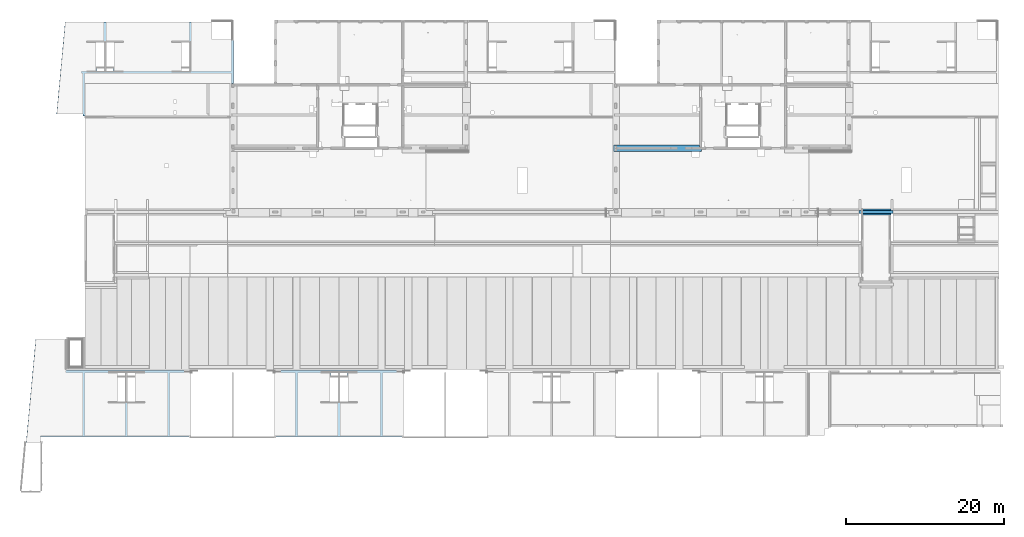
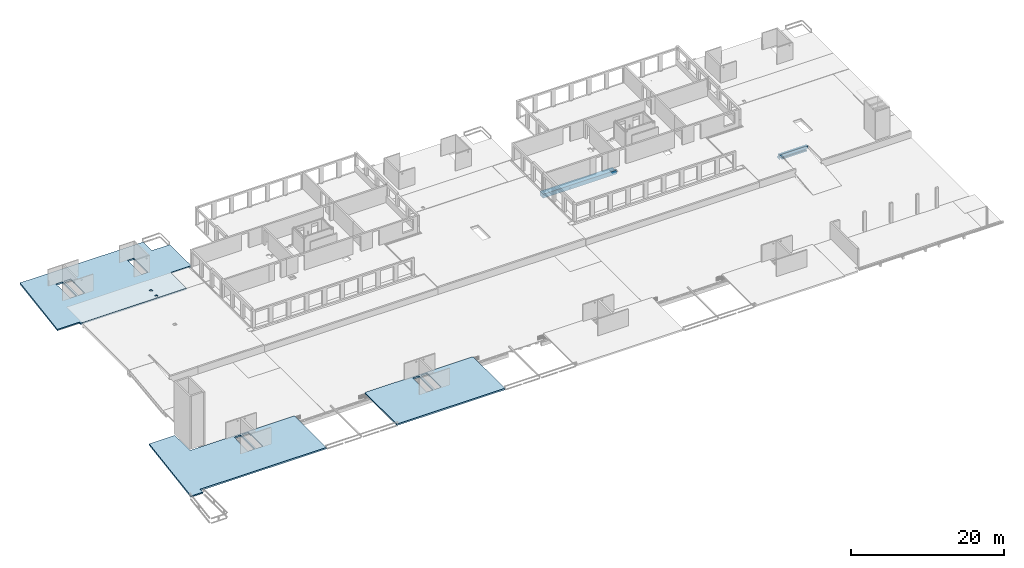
# One storey, part 32 of 36: 3 slabs, 2 beams.
"""IFC2X3 building model written with IfcOpenShell, lengths in millimetres."""

from ifc_helpers import new_model, entity, si_unit, converted_unit, derived_unit, direction, frame, origin, place, context, subcontext, project, spatial, faceted_brep, material, type_object, element, save


model = new_model("IFC2X3")

# Units and contexts
model_context = context("Model", 3, precision=0.01, world=origin(), true_north=direction((6.12303176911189e-17, 1.0)))
body_context = subcontext(model_context, "Body", "Model", "MODEL_VIEW")
ifc_project = project(units=[si_unit("LENGTHUNIT", "METRE", prefix="MILLI"), si_unit("AREAUNIT", "SQUARE_METRE"), si_unit("VOLUMEUNIT", "CUBIC_METRE"), converted_unit("PLANEANGLEUNIT", "DEGREE", entity("IfcRatioMeasure", 0.0174532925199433), si_unit("PLANEANGLEUNIT", "RADIAN"), dimensions=[0, 0, 0, 0, 0, 0, 0]), si_unit("MASSUNIT", "GRAM", prefix="KILO"), derived_unit("MASSDENSITYUNIT", [(si_unit("MASSUNIT", "GRAM", prefix="KILO"), 1), (si_unit("LENGTHUNIT", "METRE"), -3)]), si_unit("TIMEUNIT", "SECOND"), si_unit("FREQUENCYUNIT", "HERTZ"), si_unit("THERMODYNAMICTEMPERATUREUNIT", "DEGREE_CELSIUS"), derived_unit("THERMALTRANSMITTANCEUNIT", [(si_unit("MASSUNIT", "GRAM", prefix="KILO"), 1), (si_unit("THERMODYNAMICTEMPERATUREUNIT", "KELVIN"), -1), (si_unit("TIMEUNIT", "SECOND"), -3)]), derived_unit("VOLUMETRICFLOWRATEUNIT", [(si_unit("LENGTHUNIT", "METRE"), 3), (si_unit("TIMEUNIT", "SECOND"), -1)]), si_unit("ELECTRICCURRENTUNIT", "AMPERE"), si_unit("ELECTRICVOLTAGEUNIT", "VOLT"), si_unit("POWERUNIT", "WATT"), si_unit("FORCEUNIT", "NEWTON", prefix="KILO"), si_unit("ILLUMINANCEUNIT", "LUX"), si_unit("LUMINOUSFLUXUNIT", "LUMEN"), si_unit("LUMINOUSINTENSITYUNIT", "CANDELA"), derived_unit("USERDEFINED", [(si_unit("MASSUNIT", "GRAM", prefix="KILO"), -1), (si_unit("LENGTHUNIT", "METRE"), -2), (si_unit("TIMEUNIT", "SECOND"), 3), (si_unit("LUMINOUSFLUXUNIT", "LUMEN"), 1)]), derived_unit("LINEARVELOCITYUNIT", [(si_unit("LENGTHUNIT", "METRE"), 1), (si_unit("TIMEUNIT", "SECOND"), -1)]), si_unit("PRESSUREUNIT", "PASCAL"), derived_unit("USERDEFINED", [(si_unit("LENGTHUNIT", "METRE"), -2), (si_unit("MASSUNIT", "GRAM", prefix="KILO"), 1), (si_unit("TIMEUNIT", "SECOND"), -2)])], contexts=[model_context])

# Site, building, storey
site_placement = place(None, origin())
site = spatial("IfcSite", under=ifc_project, at=site_placement, Name="Default", CompositionType="ELEMENT")
building_placement = place(site_placement, origin())
building = spatial("IfcBuilding", under=site, at=building_placement, Name="niet gebruiken", CompositionType="ELEMENT")
storey_placement = place(building_placement, frame((0.0, 0.0, 12600.0)))
storey = spatial("IfcBuildingStorey", under=building, at=storey_placement, Name="04 vierde verdieping", CompositionType="ELEMENT", Elevation=12600.0)

# Beams
ifc_material_1 = material(Name="NLRS_f2_beton prefab")
beam_type_1 = type_object("IfcBeamType", Name="NLRS_28.11_SF_WPB_prefabbeton balk dubbele sponning_gen:800x660/200x410/200x410", PredefinedType="BEAM")
beam_1_placement = place(storey_placement, frame((106500.0, 28481.0, -900.0)))
element("IfcBeam", 1, at=beam_1_placement, inside=storey, type_object=beam_type_1, material=ifc_material_1, Name="NLRS_28.11_SF_WPB_prefabbeton balk dubbele sponning_gen:800x660/200x410/200x410", ObjectType="NLRS_28.11_SF_WPB_prefabbeton balk dubbele sponning_gen:800x660/200x410/200x410", context=body_context, shape_type="Brep", body=[
    faceted_brep([(0.0, 600.0, 660.0), (0.0, 600.0, 250.0), (0.0, 800.0, 250.0), (0.0, 800.0, 0.0), (0.0, 0.0, 0.0), (0.0, 0.0, 250.0), (0.0, 200.0, 250.0), (0.0, 200.0, 660.0), (4345.0, 600.0, 660.0), (4345.0, 200.0, 660.0), (4345.0, 200.0, 270.0), (4345.0, 600.0, 270.0), (20.0, 200.0, 660.0), (4325.0, 200.0, 660.0), (5.0, 0.0, 0.0), (5.0, 0.0, 250.0), (4055.0, 600.0, 270.0), (4055.0, 600.0, 250.0), (295.0, 600.0, 250.0), (295.0, 600.0, 270.0), (5.0, 600.0, 270.0), (5.0, 600.0, 250.0), (5.0, 800.0, 250.0), (5.0, 200.0, 250.0), (5.0, 200.0, 270.0), (295.0, 200.0, 270.0), (295.0, 200.0, 250.0), (4055.0, 200.0, 250.0), (4055.0, 200.0, 270.0), (5.0, 800.0, 0.0), (4055.0, 180.095299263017, 236.133963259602), (295.0, 180.095299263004, 236.133963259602), (295.0, 0.0, 213.660358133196), (4055.0, 0.0, 213.660358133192), (4055.0, 180.095299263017, 250.0), (295.0, 180.095299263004, 250.0), (295.0, 800.0, 250.0), (295.0, 800.0, 0.0), (295.0, 0.0, 0.0), (4055.0, 0.0, 0.0), (4055.0, 800.0, 250.0), (4055.0, 800.0, 0.0)], [[[0, 1, 2, 3, 4, 5, 6, 7]], [[8, 9, 10, 11]], [[0, 7, 12, 13, 9, 8]], [[5, 4, 14, 15]], [[1, 0, 8, 11, 16, 17, 18, 19, 20, 21]], [[2, 1, 21, 22]], [[7, 6, 23, 24, 25, 26, 27, 28, 10, 9, 13, 12]], [[6, 5, 15, 23]], [[3, 2, 22, 29]], [[4, 3, 29, 14]], [[30, 31, 32, 33]], [[31, 30, 34, 35]], [[25, 19, 18, 36, 37, 38, 32, 31, 35, 26]], [[20, 24, 23, 15, 14, 29, 22, 21]], [[19, 25, 24, 20]], [[38, 39, 33, 32]], [[36, 18, 17, 40]], [[27, 26, 35, 34]], [[37, 36, 40, 41]], [[38, 37, 41, 39]], [[16, 28, 27, 34, 30, 33, 39, 41, 40, 17]], [[28, 16, 11, 10]]]),
])
ifc_material_2 = material(Name="NLRS_f2_beton ihwg")
beam_type_2 = type_object("IfcBeamType", Name="NLRS_28.11_SF_WPB_betonbalk ihwg recht_gen:850x650", PredefinedType="BEAM")
beam_2_placement = place(storey_placement, frame((75325.0, 36556.0, -990.0)))
element("IfcBeam", 2, at=beam_2_placement, inside=storey, type_object=beam_type_2, material=ifc_material_2, Name="NLRS_28.11_SF_WPB_betonbalk ihwg recht_gen:850x650", ObjectType="NLRS_28.11_SF_WPB_betonbalk ihwg recht_gen:850x650", context=body_context, shape_type="Brep", body=[
    faceted_brep([(0.0, 850.0, 90.0), (0.0, 850.0, 0.0), (0.0, 0.0, 0.0), (0.0, 0.0, 90.0), (0.0, 0.0, 650.0), (0.0, 850.0, 650.0), (800.0, 850.0, 650.0), (800.0, 0.0, 650.0), (10020.0, 0.0, 650.0), (10940.0, 0.0, 650.0), (11200.0, 0.0, 650.0), (11200.0, 300.0, 650.0), (10950.0, 300.0, 650.0), (10950.0, 550.0, 650.0), (10950.0, 850.0, 650.0), (4049.06712675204, 0.0, 298.125920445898), (4035.80217423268, 0.0, 292.631397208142), (4063.30217423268, 0.0, 300.0), (4077.53722171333, 0.0, 298.125920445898), (4090.80217423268, 0.0, 292.631397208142), (4102.19304719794, 0.0, 283.89087296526), (4110.93357144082, 0.0, 272.499999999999), (4116.42809467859, 0.0, 259.235047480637), (4118.30217423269, 0.0, 245.0), (4116.42809467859, 0.0, 230.76495251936), (4110.93357144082, 0.0, 217.499999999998), (4102.19304719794, 0.0, 206.109127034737), (4090.80217423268, 0.0, 197.368602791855), (11200.0, 0.0, 0.0), (4077.53722171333, 0.0, 191.874079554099), (4063.30217423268, 0.0, 190.0), (4049.06712675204, 0.0, 191.874079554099), (4035.80217423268, 0.0, 197.368602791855), (4024.41130126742, 0.0, 206.109127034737), (4015.67077702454, 0.0, 217.499999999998), (4010.17625378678, 0.0, 230.76495251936), (4008.30217423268, 0.0, 245.0), (4010.17625378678, 0.0, 259.235047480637), (4015.67077702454, 0.0, 272.499999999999), (4024.41130126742, 0.0, 283.890872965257), (11200.0, 300.0, 0.0), (10950.0, 850.0, 0.0), (10950.0, 300.0, 0.0), (4035.80217423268, 850.0, 197.368602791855), (4024.41130126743, 850.0, 206.109127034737), (4049.06712675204, 850.0, 191.874079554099), (4063.30217423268, 850.0, 190.0), (4077.53722171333, 850.0, 191.874079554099), (4090.80217423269, 850.0, 197.368602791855), (4102.19304719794, 850.0, 206.109127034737), (4110.93357144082, 850.0, 217.499999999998), (4116.42809467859, 850.0, 230.76495251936), (4118.30217423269, 850.0, 245.0), (4116.42809467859, 850.0, 259.235047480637), (4110.93357144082, 850.0, 272.499999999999), (4102.19304719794, 850.0, 283.89087296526), (4090.80217423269, 850.0, 292.631397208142), (4077.53722171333, 850.0, 298.125920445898), (4063.30217423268, 850.0, 300.0), (4049.06712675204, 850.0, 298.125920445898), (4035.80217423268, 850.0, 292.631397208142), (4024.41130126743, 850.0, 283.890872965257), (4015.67077702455, 850.0, 272.499999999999), (4010.17625378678, 850.0, 259.235047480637), (4008.30217423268, 850.0, 245.0), (4010.17625378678, 850.0, 230.76495251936), (4015.67077702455, 850.0, 217.499999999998), (4012.48879994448, 425.0, 223.952411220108), (4009.35898381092, 543.889417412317, 234.270032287), (4008.99347876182, 252.286547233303, 236.307152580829), (4008.30217423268, 425.001920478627, 245.0), (4019.66774051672, 497.084126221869, 211.518121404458), (4042.25458545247, 425.0, 194.186625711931), (4096.78405282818, 497.084126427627, 201.365566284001), (4106.9366079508, 352.915873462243, 211.518121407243), (4029.82029564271, 352.915873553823, 201.365566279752), (4056.12323366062, 497.084126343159, 190.470532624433), (4070.48111480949, 352.915873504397, 190.470532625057), (4084.34976301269, 425.0, 194.186625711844), (4114.11554852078, 425.0, 223.952411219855), (4117.61086970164, 597.713452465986, 236.307152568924), (4118.30217423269, 425.0, 245.0), (4118.30217423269, 591.048261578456, 245.0), (4117.24536465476, 306.110582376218, 234.270032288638), (4118.30217423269, 332.09652315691, 245.0), (4096.7840528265, 497.084124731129, 288.634433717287), (4117.23199815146, 288.119285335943, 255.796948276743), (4116.4426545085, 560.813475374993, 259.180597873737), (4106.93660794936, 425.0, 278.481878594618), (4084.34976301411, 425.0, 295.813374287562), (4029.82029563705, 497.084125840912, 288.63443371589), (4019.66774050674, 352.915873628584, 278.481878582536), (4070.48111480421, 497.084125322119, 299.529467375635), (4114.11554844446, 352.915867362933, 266.047588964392), (4042.25458545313, 425.0, 295.813374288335), (4056.12323362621, 352.915873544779, 299.529467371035), (4012.48879994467, 425.0, 266.047588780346), (4008.9934787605, 597.713452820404, 253.692847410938), (4009.3589838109, 306.110582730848, 255.729967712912)], [[[0, 1, 2, 3, 4, 5]], [[6, 5, 4, 7, 8, 9, 10, 11, 12, 13, 14]], [[15, 7, 16]], [[15, 17, 7]], [[7, 17, 8]], [[18, 8, 17]], [[19, 8, 18]], [[19, 20, 8]], [[20, 21, 8]], [[21, 22, 8]], [[22, 23, 8]], [[24, 8, 23]], [[25, 8, 24]], [[8, 25, 26]], [[27, 8, 26]], [[28, 8, 27]], [[28, 27, 29]], [[29, 30, 28]], [[30, 2, 28]], [[2, 30, 31]], [[31, 32, 2]], [[2, 32, 33]], [[34, 7, 33]], [[33, 7, 2]], [[7, 34, 35]], [[36, 7, 35]], [[37, 7, 36]], [[37, 38, 7]], [[38, 39, 7]], [[39, 16, 7]], [[7, 3, 2]], [[28, 9, 8]], [[9, 28, 10]], [[7, 4, 3]], [[40, 28, 2, 1, 41, 42]], [[43, 1, 44]], [[1, 43, 45]], [[45, 46, 1]], [[46, 41, 1]], [[47, 41, 46]], [[41, 47, 48]], [[48, 49, 41]], [[49, 50, 41]], [[50, 51, 41]], [[52, 41, 51]], [[52, 14, 41]], [[52, 53, 14]], [[54, 14, 53]], [[54, 55, 14]], [[56, 14, 55]], [[14, 56, 57]], [[57, 58, 14]], [[58, 6, 14]], [[6, 58, 59]], [[59, 60, 6]], [[6, 60, 61]], [[61, 62, 6]], [[62, 63, 6]], [[63, 64, 6]], [[6, 64, 65]], [[6, 65, 66]], [[6, 66, 44]], [[6, 44, 1]], [[1, 0, 6]], [[0, 5, 6]], [[40, 42, 12, 11]], [[11, 10, 28, 40]], [[13, 12, 42, 41, 14]], [[66, 65, 67]], [[68, 69, 67]], [[70, 68, 64]], [[67, 71, 66]], [[45, 43, 72]], [[49, 73, 74]], [[74, 73, 26]], [[72, 43, 75]], [[35, 67, 69]], [[45, 72, 76]], [[68, 67, 65]], [[69, 70, 36]], [[64, 68, 65]], [[71, 44, 66]], [[33, 32, 75]], [[67, 35, 34]], [[30, 29, 77]], [[71, 67, 34]], [[72, 75, 32]], [[73, 49, 48]], [[72, 32, 31]], [[76, 46, 45]], [[76, 72, 31]], [[35, 69, 36]], [[48, 47, 78]], [[46, 76, 77]], [[77, 76, 30]], [[78, 73, 48]], [[51, 50, 79]], [[74, 50, 49]], [[44, 71, 75]], [[79, 50, 74]], [[26, 73, 27]], [[80, 81, 82, 52]], [[77, 29, 78]], [[78, 29, 27]], [[75, 43, 44]], [[26, 25, 74]], [[69, 68, 70]], [[73, 78, 27]], [[30, 76, 31]], [[74, 25, 79]], [[24, 79, 25]], [[77, 47, 46]], [[24, 83, 79]], [[33, 71, 34]], [[75, 71, 33]], [[77, 78, 47]], [[80, 83, 81]], [[24, 23, 83]], [[51, 79, 80]], [[83, 23, 84, 81]], [[83, 80, 79]], [[51, 80, 52]], [[85, 20, 19]], [[86, 82, 81, 84, 23]], [[87, 53, 82]], [[54, 88, 55]], [[57, 56, 89]], [[61, 90, 91]], [[91, 90, 39]], [[88, 85, 55]], [[22, 86, 23]], [[57, 89, 92]], [[87, 86, 93]], [[90, 61, 60]], [[85, 56, 55]], [[22, 21, 93]], [[93, 21, 88]], [[93, 88, 54]], [[88, 21, 20]], [[88, 20, 85]], [[92, 58, 57]], [[89, 19, 18]], [[52, 82, 53]], [[92, 89, 18]], [[86, 87, 82]], [[60, 59, 94]], [[58, 92, 95]], [[95, 92, 17]], [[94, 90, 60]], [[63, 62, 96]], [[91, 62, 61]], [[17, 92, 18]], [[96, 62, 91]], [[39, 90, 16]], [[97, 70, 64]], [[95, 15, 94]], [[94, 15, 16]], [[39, 38, 91]], [[37, 36, 98]], [[19, 89, 85]], [[90, 94, 16]], [[54, 87, 93]], [[91, 38, 96]], [[37, 96, 38]], [[22, 93, 86]], [[37, 98, 96]], [[85, 89, 56]], [[95, 59, 58]], [[95, 94, 59]], [[97, 98, 70]], [[17, 15, 95]], [[53, 87, 54]], [[63, 96, 97]], [[70, 98, 36]], [[98, 97, 96]], [[63, 97, 64]]]),
])

# Slabs
slab_1_placement = place(storey_placement, origin())
element("IfcSlab", 3, at=slab_1_placement, inside=storey, Name="Floor:NLRS_23.21_FL_breedplaat d=70/250_schil apart_gen", ObjectType="Floor:NLRS_23.21_FL_breedplaat d=70/250_schil apart_gen", PredefinedType="FLOOR", context=body_context, shape_type="Brep", body=[
    faceted_brep([(10925.0, 46746.0, -340.0), (11895.0, 46746.0, -340.0), (11895.0, 47326.0, -340.0), (11925.0, 47326.0, -340.0), (11925.0, 46726.0, -340.0), (20475.0, 46726.0, -340.0), (20475.0, 47326.0, -340.0), (20505.0, 47326.0, -340.0), (20505.0, 46746.0, -340.0), (21475.0, 46746.0, -340.0), (21475.0, 50426.0, -340.0), (20475.0, 50426.0, -340.0), (20475.0, 50576.0, -340.0), (21495.0, 50576.0, -340.0), (21495.0, 52986.0, -340.0), (10905.0, 52986.0, -340.0), (10905.0, 50576.0, -340.0), (11925.0, 50576.0, -340.0), (11925.0, 50426.0, -340.0), (10925.0, 50426.0, -340.0), (27100.0, 50756.0, -340.0), (27100.0, 45176.0, -340.0), (26870.0, 45176.0, -340.0), (26870.0, 46516.0, -340.0), (8205.0, 46516.0, -340.0), (8205.0, 41291.0, -340.0), (23775.0, 41291.0, -340.0), (23775.0, 45176.0, -340.0), (24005.0, 45176.0, -340.0), (24005.0, 41291.0, -340.0), (24005.0, 41061.0, -340.0), (7975.0, 41061.0, -340.0), (7975.0, 41336.0, -340.0), (7995.0, 41336.0, -340.0), (7995.0, 46516.0, -340.0), (7805.0, 46516.0, -340.0), (7805.0, 46726.0, -340.0), (9675.0, 46726.0, -340.0), (9675.0, 47326.0, -340.0), (9705.0, 47326.0, -340.0), (9705.0, 46746.0, -340.0), (10675.0, 46746.0, -340.0), (10675.0, 50426.0, -340.0), (9675.0, 50426.0, -340.0), (9675.0, 50576.0, -340.0), (10695.0, 50576.0, -340.0), (10695.0, 52986.0, -340.0), (5746.9386252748, 52986.0, -340.0), (4667.04137210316, 41336.0, -340.0), (4646.95563217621, 41336.0, -340.0), (5728.70678621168, 53006.0, -340.0), (24379.9499858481, 53006.0, -340.0), (24379.9499858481, 52986.0, -340.0), (21705.0, 52986.0, -340.0), (21705.0, 46726.0, -340.0), (26870.0, 46726.0, -340.0), (26870.0, 50756.0, -340.0), (27100.0, 45176.0, -90.0), (27100.0, 50756.0, -90.0), (24379.9499858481, 50756.0, -90.0), (24379.9499858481, 53006.0, -90.0), (5728.70678621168, 53006.0, -90.0), (4646.95563217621, 41336.0, -90.0), (7975.0, 41336.0, -90.0), (7975.0, 41061.0, -90.0), (24005.0, 41061.0, -90.0), (24005.0, 45176.0, -90.0), (11895.0, 46746.0, -90.0), (10925.0, 46746.0, -90.0), (10925.0, 50426.0, -90.0), (11925.0, 50426.0, -90.0), (11925.0, 47326.0, -90.0), (11895.0, 47326.0, -90.0), (10675.0, 46746.0, -90.0), (9705.0, 46746.0, -90.0), (9705.0, 47326.0, -90.0), (9675.0, 47326.0, -90.0), (9675.0, 50426.0, -90.0), (10675.0, 50426.0, -90.0), (21475.0, 46746.0, -90.0), (20505.0, 46746.0, -90.0), (20505.0, 47326.0, -90.0), (20475.0, 47326.0, -90.0), (20475.0, 50426.0, -90.0), (21475.0, 50426.0, -90.0), (19495.0, 41711.0000955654, -90.0), (19895.0, 41711.0000955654, -90.0), (19895.0, 41311.0000955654, -90.0), (19495.0, 41311.0000955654, -90.0), (19495.0, 43111.0, -90.0), (19895.0, 43111.0, -90.0), (19895.0, 42711.0, -90.0), (19495.0, 42711.0, -90.0), (24005.0, 45176.0, -140.0), (24005.0, 45176.0, -270.0), (26675.0, 45176.0, -270.0), (26870.0, 45176.0, -270.0), (24005.0, 41061.0, -140.0), (24379.9499858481, 50756.0, -270.0), (24379.9499858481, 52986.0, -270.0), (26870.0, 50756.0, -270.0), (11925.0, 50426.0, -270.0), (11925.0, 47326.0, -270.0), (9675.0, 50426.0, -270.0), (9675.0, 47326.0, -270.0), (20475.0, 50426.0, -270.0), (20475.0, 47326.0, -270.0), (4667.04137210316, 41336.0, -270.0), (5746.9386252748, 52986.0, -270.0), (10695.0, 52986.0, -270.0), (10695.0, 50576.0, -270.0), (9675.0, 50576.0, -270.0), (9675.0, 46726.0, -270.0), (7805.0, 46726.0, -270.0), (7805.0, 46516.0, -270.0), (7995.0, 46516.0, -270.0), (7995.0, 41336.0, -270.0), (7975.0, 41336.0, -270.0), (8205.0, 46516.0, -270.0), (26870.0, 46516.0, -270.0), (23775.0, 45176.0, -270.0), (23775.0, 41291.0, -270.0), (8205.0, 41291.0, -270.0), (19895.0, 41711.0000955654, -270.0), (19495.0, 41711.0000955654, -270.0), (19495.0, 41311.0000955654, -270.0), (19895.0, 41311.0000955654, -270.0), (19895.0, 43111.0, -270.0), (19495.0, 43111.0, -270.0), (19495.0, 42711.0, -270.0), (19895.0, 42711.0, -270.0), (10905.0, 52986.0, -270.0), (21495.0, 52986.0, -270.0), (21495.0, 50576.0, -270.0), (20475.0, 50576.0, -270.0), (20475.0, 46726.0, -270.0), (11925.0, 46726.0, -270.0), (11925.0, 50576.0, -270.0), (10905.0, 50576.0, -270.0), (21705.0, 52986.0, -270.0), (26870.0, 46726.0, -270.0), (21705.0, 46726.0, -270.0)], [[[0, 1, 2, 3, 4, 5, 6, 7, 8, 9, 10, 11, 12, 13, 14, 15, 16, 17, 18, 19], [20, 21, 22, 23, 24, 25, 26, 27, 28, 29, 30, 31, 32, 33, 34, 35, 36, 37, 38, 39, 40, 41, 42, 43, 44, 45, 46, 47, 48, 49, 50, 51, 52, 53, 54, 55, 56]], [[57, 58, 59, 60, 61, 62, 63, 64, 65, 66], [67, 68, 69, 70, 71, 72], [73, 74, 75, 76, 77, 78], [79, 80, 81, 82, 83, 84], [85, 86, 87, 88], [89, 90, 91, 92]], [[21, 20, 58, 57]], [[57, 66, 93, 94, 95, 96, 22, 21]], [[30, 29, 28, 94, 93, 66, 65, 97]], [[31, 30, 97, 65, 64]], [[51, 50, 61, 60]], [[60, 59, 98, 99, 52, 51]], [[59, 58, 20, 56, 100, 98]], [[68, 0, 19, 69]], [[0, 68, 67, 1]], [[1, 67, 72, 2]], [[41, 73, 78, 42]], [[73, 41, 40, 74]], [[74, 40, 39, 75]], [[9, 79, 84, 10]], [[79, 9, 8, 80]], [[80, 8, 7, 81]], [[69, 19, 18, 101, 70]], [[3, 2, 72, 71, 102]], [[71, 70, 101, 102]], [[42, 78, 77, 103, 43]], [[77, 76, 104, 103]], [[39, 38, 104, 76, 75]], [[10, 84, 83, 105, 11]], [[83, 82, 106, 105]], [[7, 6, 106, 82, 81]], [[50, 49, 62, 61]], [[107, 108, 109, 110, 111, 103, 104, 112, 113, 114, 115, 116, 117]], [[109, 108, 47, 46]], [[110, 109, 46, 45]], [[111, 110, 45, 44]], [[111, 44, 43, 103]], [[113, 112, 37, 36]], [[108, 107, 48, 47]], [[116, 115, 34, 33]], [[116, 33, 32, 117]], [[118, 119, 96, 95, 94, 120, 121, 122], [123, 124, 125, 126], [127, 128, 129, 130]], [[96, 119, 23, 22]], [[27, 120, 94, 28]], [[121, 120, 27, 26]], [[118, 122, 25, 24]], [[119, 118, 24, 23]], [[122, 121, 26, 25]], [[131, 132, 133, 134, 105, 106, 135, 136, 102, 101, 137, 138]], [[132, 131, 15, 14]], [[131, 138, 16, 15]], [[138, 137, 17, 16]], [[136, 4, 3, 102]], [[136, 135, 5, 4]], [[133, 132, 14, 13]], [[134, 133, 13, 12]], [[134, 12, 11, 105]], [[139, 99, 98, 100, 140, 141]], [[99, 139, 53, 52]], [[139, 141, 54, 53]], [[141, 140, 55, 54]], [[140, 100, 56, 55]], [[114, 113, 36, 35]], [[115, 114, 35, 34]], [[32, 31, 64, 63, 117]], [[63, 62, 49, 48, 107, 117]], [[86, 85, 124, 123]], [[85, 88, 125, 124]], [[88, 87, 126, 125]], [[87, 86, 123, 126]], [[90, 89, 128, 127]], [[89, 92, 129, 128]], [[92, 91, 130, 129]], [[91, 90, 127, 130]], [[5, 135, 106, 6]], [[17, 137, 101, 18]], [[37, 112, 104, 38]]], outer=[[False, True], [True, False, False, False, False, False], [True], [True], [True], [True], [True], [True], [True], [True], [True], [True], [True], [True], [True], [True], [True], [True], [True], [True], [True], [True], [True], [True], [True], [True], [True], [True], [True], [True], [True], [True], [True], [True], [True], [True], [True], [True, False, False], [True], [True], [True], [True], [True], [True], [True], [True], [True], [True], [True], [True], [True], [True], [True], [True], [True], [True], [True], [True], [True], [True], [True], [True], [True], [True], [True], [True], [True], [True], [True], [True], [True], [True], [True]]),
])
slab_2_placement = place(storey_placement, origin())
element("IfcSlab", 4, at=slab_2_placement, inside=storey, Name="Floor:NLRS_23.21_FL_breedplaat d=70/250_schil apart_gen", ObjectType="Floor:NLRS_23.21_FL_breedplaat d=70/250_schil apart_gen", PredefinedType="FLOOR", context=body_context, shape_type="Brep", body=[
    faceted_brep([(781.477851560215, -365.0, -340.0), (1993.54960850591, 12711.0, -340.0), (2013.63534721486, 12711.0, -340.0), (801.563590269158, -365.0, -340.0), (1993.54960850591, 12711.0, -90.0), (781.477851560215, -365.0, -90.0), (2600.0, -365.0, -90.0), (2600.0, 400.0, -90.0), (21680.0, 400.0, -90.0), (21680.0, 8746.0, -90.0), (5875.0, 8746.0, -90.0), (5875.0, 12711.0, -90.0), (13625.0, 8496.0, -90.0), (14595.0, 8496.0, -90.0), (14595.0, 7916.0, -90.0), (14625.0, 7916.0, -90.0), (14625.0, 4816.0, -90.0), (13625.0, 4816.0, -90.0), (12405.0, 8496.0, -90.0), (13375.0, 8496.0, -90.0), (13375.0, 4816.0, -90.0), (12375.0, 4816.0, -90.0), (12375.0, 7916.0, -90.0), (12405.0, 7916.0, -90.0), (21680.0, 8746.0, -340.0), (7975.0, 8746.0, -340.0), (5875.0, 8746.0, -340.0), (5875.0, 8746.0, -270.0), (21680.0, 400.0, -340.0), (21680.0, 420.0, -340.0), (21680.0, 420.0, -270.0), (21680.0, 8516.0, -270.0), (21680.0, 8516.0, -340.0), (2600.0, 400.0, -340.0), (2600.0, -365.0, -340.0), (801.563590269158, -365.0, -270.0), (2580.0, -365.0, -270.0), (2580.0, -365.0, -340.0), (5875.0, 12711.0, -270.0), (2013.63534721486, 12711.0, -270.0), (13625.0, 8496.0, -340.0), (14595.0, 8496.0, -340.0), (13625.0, 4816.0, -340.0), (14595.0, 7916.0, -340.0), (12405.0, 8496.0, -340.0), (13375.0, 8496.0, -340.0), (13375.0, 4816.0, -340.0), (12405.0, 7916.0, -340.0), (12375.0, 4816.0, -340.0), (12375.0, 4816.0, -270.0), (12375.0, 7916.0, -270.0), (12375.0, 7916.0, -340.0), (14625.0, 4816.0, -270.0), (14625.0, 4816.0, -340.0), (14625.0, 7916.0, -340.0), (14625.0, 7916.0, -270.0), (8205.0, 8516.0, -270.0), (12375.0, 8516.0, -270.0), (12375.0, 4666.0, -270.0), (13395.0, 4666.0, -270.0), (13395.0, 420.0, -270.0), (8205.0, 420.0, -270.0), (13395.0, 4666.0, -340.0), (13395.0, 420.0, -340.0), (8205.0, 420.0, -340.0), (8205.0, 8516.0, -340.0), (12375.0, 8516.0, -340.0), (12375.0, 4666.0, -340.0), (13605.0, 4666.0, -270.0), (14625.0, 4666.0, -270.0), (14625.0, 8516.0, -270.0), (18795.0, 8516.0, -270.0), (18795.0, 420.0, -270.0), (13605.0, 420.0, -270.0), (13605.0, 420.0, -340.0), (13605.0, 4666.0, -340.0), (18795.0, 420.0, -340.0), (14625.0, 8516.0, -340.0), (18795.0, 8516.0, -340.0), (14625.0, 4666.0, -340.0), (19005.0, 8516.0, -270.0), (19005.0, 420.0, -270.0), (19005.0, 420.0, -340.0), (19005.0, 8516.0, -340.0), (5840.0, 8516.0, -270.0), (7995.0, 8516.0, -270.0), (7995.0, 420.0, -270.0), (2580.0, 420.0, -270.0), (5875.0, 8726.0, -270.0), (5840.0, 8726.0, -270.0), (7995.0, 420.0, -340.0), (2580.0, 420.0, -340.0), (5840.0, 8516.0, -340.0), (7995.0, 8516.0, -340.0), (5875.0, 8726.0, -340.0), (5840.0, 8726.0, -340.0)], [[[0, 1, 2, 3]], [[4, 5, 6, 7, 8, 9, 10, 11], [12, 13, 14, 15, 16, 17], [18, 19, 20, 21, 22, 23]], [[1, 0, 5, 4]], [[24, 25, 26, 27, 10, 9]], [[9, 8, 28, 29, 30, 31, 32, 24]], [[33, 28, 8, 7]], [[34, 33, 7, 6]], [[6, 5, 0, 3, 35, 36, 37, 34]], [[4, 11, 38, 39, 2, 1]], [[11, 10, 27, 38]], [[12, 40, 41, 13]], [[40, 12, 17, 42]], [[13, 41, 43, 14]], [[18, 44, 45, 19]], [[19, 45, 46, 20]], [[44, 18, 23, 47]], [[20, 46, 48, 49, 21]], [[22, 21, 49, 50]], [[51, 47, 23, 22, 50]], [[42, 17, 16, 52, 53]], [[43, 54, 55, 15, 14]], [[16, 15, 55, 52]], [[56, 57, 50, 49, 58, 59, 60, 61]], [[60, 59, 62, 63]], [[61, 60, 63, 64]], [[57, 56, 65, 66]], [[57, 66, 51, 50]], [[59, 58, 67, 62]], [[56, 61, 64, 65]], [[68, 69, 52, 55, 70, 71, 72, 73]], [[68, 73, 74, 75]], [[73, 72, 76, 74]], [[71, 70, 77, 78]], [[69, 79, 53, 52]], [[69, 68, 75, 79]], [[72, 71, 78, 76]], [[80, 31, 30, 81]], [[81, 30, 29, 82]], [[80, 81, 82, 83]], [[31, 80, 83, 32]], [[84, 85, 86, 87, 36, 35, 39, 38, 27, 88, 89]], [[87, 86, 90, 91]], [[36, 87, 91, 37]], [[85, 84, 92, 93]], [[86, 85, 93, 90]], [[94, 88, 27, 26]], [[39, 35, 3, 2]], [[89, 88, 94, 95]], [[84, 89, 95, 92]], [[77, 70, 55, 54]], [[67, 58, 49, 48]], [[26, 25, 24, 32, 83, 82, 29, 28, 33, 34, 37, 91, 90, 93, 92, 95, 94], [41, 40, 42, 53, 79, 75, 74, 76, 78, 77, 54, 43], [45, 44, 47, 51, 66, 65, 64, 63, 62, 67, 48, 46]]]),
])
slab_3_placement = place(storey_placement, origin())
element("IfcSlab", 5, at=slab_3_placement, inside=storey, Name="Floor:NLRS_23.21_FL_breedplaat d=70/250_schil apart_gen", ObjectType="Floor:NLRS_23.21_FL_breedplaat d=70/250_schil apart_gen", PredefinedType="FLOOR", context=body_context, shape_type="Brep", body=[
    faceted_brep([(48680.0, 400.0, -340.0), (32320.0, 400.0, -340.0), (32320.0, 420.0, -340.0), (34995.0, 420.0, -340.0), (34995.0, 8516.0, -340.0), (32320.0, 8516.0, -340.0), (32320.0, 8746.0, -340.0), (48680.0, 8746.0, -340.0), (48680.0, 8516.0, -340.0), (46005.0, 8516.0, -340.0), (46005.0, 420.0, -340.0), (48680.0, 420.0, -340.0), (41595.0, 8496.0, -340.0), (40625.0, 8496.0, -340.0), (40625.0, 4816.0, -340.0), (41625.0, 4816.0, -340.0), (41625.0, 4666.0, -340.0), (40605.0, 4666.0, -340.0), (40605.0, 420.0, -340.0), (45795.0, 420.0, -340.0), (45795.0, 8516.0, -340.0), (41625.0, 8516.0, -340.0), (41625.0, 7916.0, -340.0), (41595.0, 7916.0, -340.0), (40375.0, 8496.0, -340.0), (39405.0, 8496.0, -340.0), (39405.0, 7916.0, -340.0), (39375.0, 7916.0, -340.0), (39375.0, 8516.0, -340.0), (35205.0, 8516.0, -340.0), (35205.0, 420.0, -340.0), (40395.0, 420.0, -340.0), (40395.0, 4666.0, -340.0), (39375.0, 4666.0, -340.0), (39375.0, 4816.0, -340.0), (40375.0, 4816.0, -340.0), (48680.0, 400.0, -90.0), (48680.0, 8746.0, -90.0), (32320.0, 8746.0, -90.0), (32320.0, 400.0, -90.0), (40625.0, 8496.0, -90.0), (41595.0, 8496.0, -90.0), (41595.0, 7916.0, -90.0), (41625.0, 7916.0, -90.0), (41625.0, 4816.0, -90.0), (40625.0, 4816.0, -90.0), (39405.0, 8496.0, -90.0), (40375.0, 8496.0, -90.0), (40375.0, 4816.0, -90.0), (39375.0, 4816.0, -90.0), (39375.0, 7916.0, -90.0), (39405.0, 7916.0, -90.0), (48680.0, 420.0, -270.0), (48680.0, 8516.0, -270.0), (32320.0, 8516.0, -270.0), (32320.0, 420.0, -270.0), (39375.0, 4816.0, -270.0), (39375.0, 7916.0, -270.0), (41625.0, 4816.0, -270.0), (41625.0, 7916.0, -270.0), (34995.0, 420.0, -270.0), (34995.0, 8516.0, -270.0), (35205.0, 8516.0, -270.0), (39375.0, 8516.0, -270.0), (39375.0, 4666.0, -270.0), (40395.0, 4666.0, -270.0), (40395.0, 420.0, -270.0), (35205.0, 420.0, -270.0), (40605.0, 4666.0, -270.0), (41625.0, 4666.0, -270.0), (41625.0, 8516.0, -270.0), (45795.0, 8516.0, -270.0), (45795.0, 420.0, -270.0), (40605.0, 420.0, -270.0), (46005.0, 8516.0, -270.0), (46005.0, 420.0, -270.0)], [[[0, 1, 2, 3, 4, 5, 6, 7, 8, 9, 10, 11], [12, 13, 14, 15, 16, 17, 18, 19, 20, 21, 22, 23], [24, 25, 26, 27, 28, 29, 30, 31, 32, 33, 34, 35]], [[36, 37, 38, 39], [40, 41, 42, 43, 44, 45], [46, 47, 48, 49, 50, 51]], [[37, 36, 0, 11, 52, 53, 8, 7]], [[1, 0, 36, 39]], [[39, 38, 6, 5, 54, 55, 2, 1]], [[7, 6, 38, 37]], [[40, 13, 12, 41]], [[13, 40, 45, 14]], [[41, 12, 23, 42]], [[46, 25, 24, 47]], [[47, 24, 35, 48]], [[25, 46, 51, 26]], [[48, 35, 34, 56, 49]], [[50, 49, 56, 57]], [[27, 26, 51, 50, 57]], [[14, 45, 44, 58, 15]], [[23, 22, 59, 43, 42]], [[44, 43, 59, 58]], [[60, 55, 54, 61]], [[55, 60, 3, 2]], [[60, 61, 4, 3]], [[61, 54, 5, 4]], [[62, 63, 57, 56, 64, 65, 66, 67]], [[66, 65, 32, 31]], [[67, 66, 31, 30]], [[63, 62, 29, 28]], [[63, 28, 27, 57]], [[65, 64, 33, 32]], [[62, 67, 30, 29]], [[68, 69, 58, 59, 70, 71, 72, 73]], [[68, 73, 18, 17]], [[73, 72, 19, 18]], [[71, 70, 21, 20]], [[69, 16, 15, 58]], [[69, 68, 17, 16]], [[72, 71, 20, 19]], [[74, 53, 52, 75]], [[75, 52, 11, 10]], [[74, 75, 10, 9]], [[53, 74, 9, 8]], [[21, 70, 59, 22]], [[33, 64, 56, 34]]]),
])

save(model, "model.ifc")
